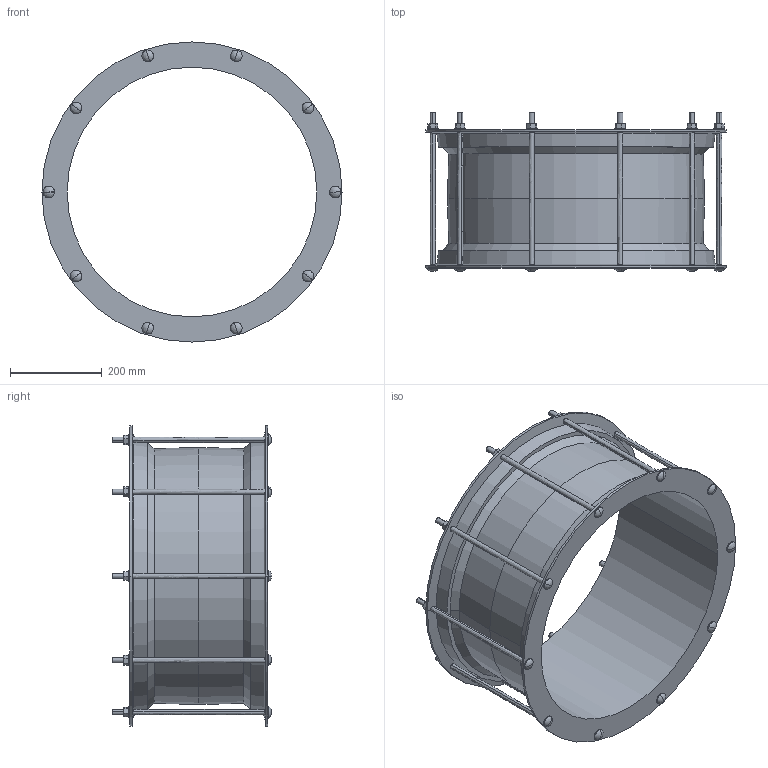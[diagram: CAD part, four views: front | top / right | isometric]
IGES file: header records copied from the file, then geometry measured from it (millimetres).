
Start section:  PTC IGES file: 527_544.igs
Global section: file name: 527_544.igs; native system: Creo Parametric by PTC Inc.; preprocessor: 2016130; author: mfairey; organization: Unknown; date: 20181218.141913; units: millimetre
Bounding box: 656 x 348 x 656 mm (x, y, z)
Surface area: 1534578.1 mm2 (no closed solid volume)
Topology: 0 solids, 0 shells, 216 faces, 1028 edges, 1008 vertices
Faces by surface type: revolution 122, bspline 94
